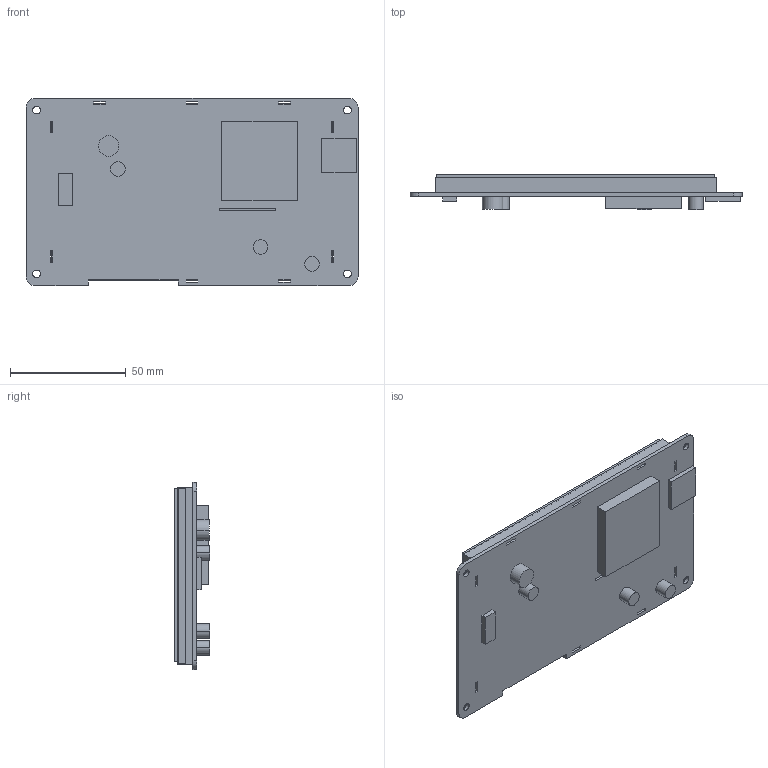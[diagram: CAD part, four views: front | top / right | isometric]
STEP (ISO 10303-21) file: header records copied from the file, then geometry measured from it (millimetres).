
FILE_DESCRIPTION((''),'2;1');
FILE_NAME('DMG80480C050_03W_ASM','2022-12-09T',('Administrator'),(''),'PRO/ENGINEER BY PARAMETRIC TECHNOLOGY CORPORATION, 2014320','PRO/ENGINEER BY PARAMETRIC TECHNOLOGY CORPORATION, 2014320','');
FILE_SCHEMA(('CONFIG_CONTROL_DESIGN','SHAPE_APPEARANCE_LAYERS_GROUPS'));
Length unit declared in the file: millimetre
Products named in the file (5): TK050002; FC50QE40-04; PCB; HR4-8888-5; DMG80480C050_03W_ASM
Assembly tree (4 placements, depth 2):
  DMG80480C050_03W_ASM
    TK050002
    FC50QE40-04
    PCB
    HR4-8888-5
Bounding box: 143.51 x 15.35 x 80.9 mm (x, y, z)
Volume: 65516.1 mm3; surface area: 72296.5 mm2
Topology: 4 solids, 4 shells, 162 faces, 414 edges, 276 vertices
Faces by surface type: plane 140, cylinder 22
Entity records: 5251 total; most frequent: CARTESIAN_POINT 861, ORIENTED_EDGE 828, DIRECTION 800, EDGE_CURVE 414, VECTOR 370, LINE 370, VERTEX_POINT 276, AXIS2_PLACEMENT_3D 215
